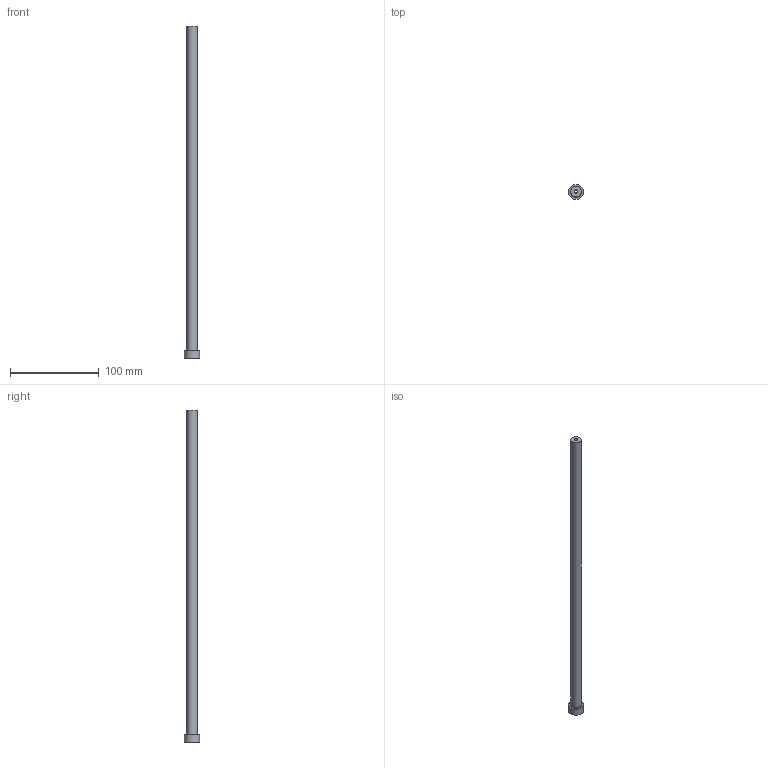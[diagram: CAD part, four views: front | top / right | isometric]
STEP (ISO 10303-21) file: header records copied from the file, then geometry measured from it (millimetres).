
FILE_DESCRIPTION (( 'STEP AP203' ), '1' );
FILE_NAME ('JES-4-12-375.STEP', '2017-06-21T16:57:13', ( '' ), ( '' ), 'SwSTEP 2.0', 'SolidWorks 2017', '' );
FILE_SCHEMA (( 'CONFIG_CONTROL_DESIGN' ));
Length unit declared in the file: millimetre
Products named in the file (1): JES-4-12-375
Bounding box: 17 x 17 x 375 mm (x, y, z)
Volume: 37860 mm3; surface area: 19742.9 mm2
Topology: 1 solids, 1 shells, 10 faces, 17 edges, 10 vertices
Faces by surface type: cylinder 4, plane 3, cone 2, torus 1
Full cylindrical faces by diameter (mm): 4 x1, 4.5 x1, 12 x1, 17 x1
Entity records: 285 total; most frequent: DIRECTION 42, CARTESIAN_POINT 31, AXIS2_PLACEMENT_3D 21, ORIENTED_EDGE 20, EDGE_LOOP 20, FACE_OUTER_BOUND 15, VERTEX_POINT 10, CIRCLE 10
